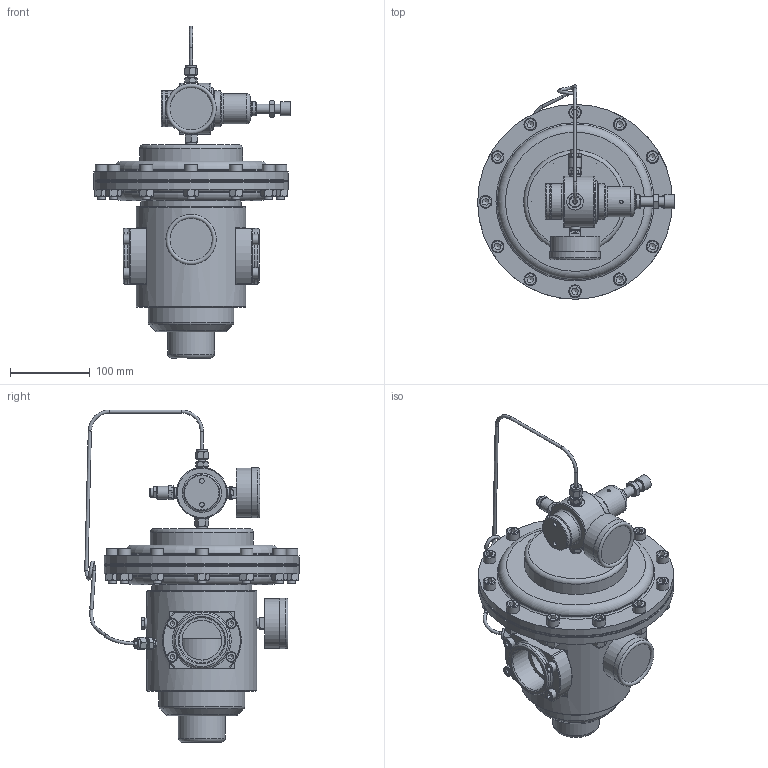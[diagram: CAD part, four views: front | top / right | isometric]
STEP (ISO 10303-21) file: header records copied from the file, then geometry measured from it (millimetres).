
FILE_DESCRIPTION((''),'2;1');
FILE_NAME('C:\DISEGNI\3D\Consultazione\Complessivi\C01257.stp','2012-03-07T15:42:30',('filippocerofolini'),(''),'Autodesk Inventor 2010','Autodesk Inventor 2010','');
FILE_SCHEMA(('AUTOMOTIVE_DESIGN { 1 0 10303 214 1 1 1 1 }'));
Length unit declared in the file: millimetre
Products named in the file (39): C01257; P20367; P34140; P34141; P37063; C01250 - O Ring 3243; 0ABNCC07; P34014; UNI 5931 M 8 x  30; P64007; UNI 5739 M10 x 20; P51012; C01255 - P23024; C01255 - P23023; UNI 5931 M 10 x  35; UNI 5588 M10; P29103; 0CMAA22; C01257 - 09SSA004; C01174; P20106; P34049; C43014; P43057; UNI EN 24035 M12; C51006; Welds_1; P21056; P21028; P38019; P33007; P34014030304; P42018; P22009; P43009; P20030; P24010; P28018
Assembly tree (86 placements, depth 4):
  C01257
    P20367
    P34140
    P34141
    P37063  x2
    C01250 - O Ring 3243  x2
    0ABNCC07
    P34014  x2
    UNI 5931 M 8 x  30  x8
    P64007  x2
    UNI 5739 M10 x 20  x12
    P51012
    C01255 - P23024
    C01255 - P23023  x2
    UNI 5931 M 10 x  35  x12
    UNI 5588 M10  x12
    P29103
    0CMAA22  x2
    C01257 - 09SSA004
    C01174
      P20106
      P34049
      C43014
        P43057
        UNI EN 24035 M12
      C51006
        Welds_1
        P21056
        P21028
        P38019
      P33007
      0ABNCC07
      P34014030304
    P42018
    P22009
    P43009
    P20030
    P24010
      P24010
    P28018
    P33007
Bounding box: 247.4 x 269.74 x 417.49 mm (x, y, z)
Volume: 3226396.7 mm3; surface area: 978362.4 mm2
Topology: 83 solids, 83 shells, 1863 faces, 4082 edges, 2558 vertices
Faces by surface type: plane 698, cone 504, bspline 339, cylinder 243, torus 70, revolution 8, sphere 1
Full cylindrical faces by diameter (mm): 1 x1, 2 x6, 3 x1, 3.5 x1, 4 x7, 4.2 x1, 5 x2, 6 x2, 6.9 x1, 7 x1, 7.4 x1, 7.7 x1, 8 x8, 8.4 x1, 9 x2, 10 x25, 11 x7, 11.3 x1, 11.445 x3, 11.5 x1, 12 x2, 12.157 x2, 13 x10, 13.156 x1, 13.157 x7, 13.5 x4, 14.5 x3, 14.63 x12, 14.9 x1, 16 x13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
Entity records: 28754 total; most frequent: CARTESIAN_POINT 10835, DIRECTION 3513, ORIENTED_EDGE 2844, AXIS2_PLACEMENT_3D 1635, EDGE_LOOP 1563, EDGE_CURVE 1422, VERTEX_POINT 1103, FACE_OUTER_BOUND 895
